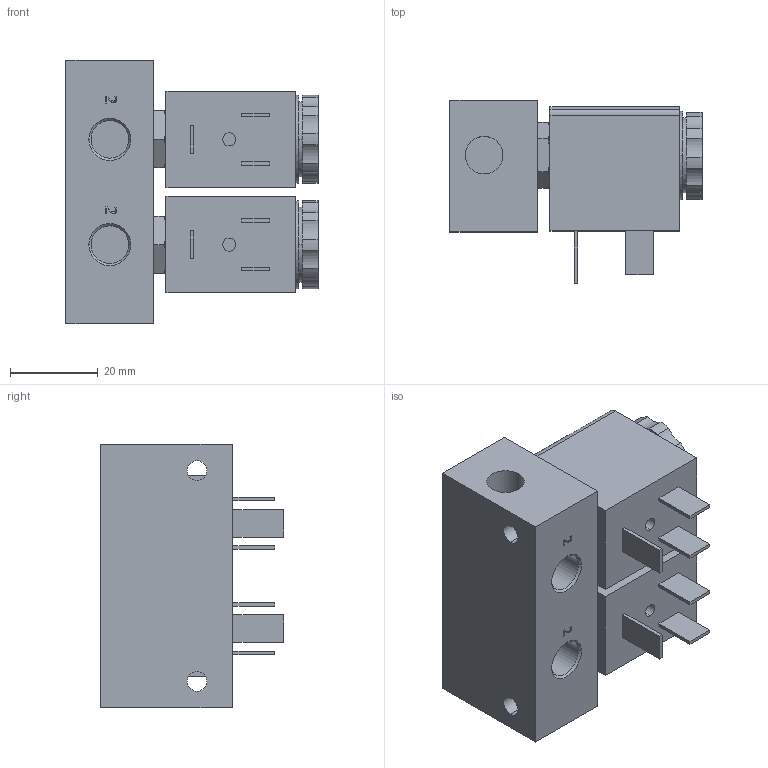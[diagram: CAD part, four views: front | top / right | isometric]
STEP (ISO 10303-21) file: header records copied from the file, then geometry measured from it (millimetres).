
FILE_DESCRIPTION (( 'STEP AP214' ), '1' );
FILE_NAME ('MSO-18-310_2-HN-412_Airtec.step', '2018-12-14T07:35:07', ( '' ), ( '' ), 'SwSTEP 2.0', 'SolidWorks 2010', '' );
FILE_SCHEMA (( 'AUTOMOTIVE_DESIGN' ));
Length unit declared in the file: millimetre
Products named in the file (3): Volumenkörper4; Volumenkörper1; MSO-18-310_2-HN-412_Airtec
Assembly tree (3 placements, depth 2):
  MSO-18-310_2-HN-412_Airtec
    Volumenkörper4
    Volumenkörper1  x2
Bounding box: 57.45 x 41.7 x 60 mm (x, y, z)
Volume: 73704 mm3; surface area: 23729.8 mm2
Topology: 3 solids, 5 shells, 406 faces, 996 edges, 650 vertices
Faces by surface type: plane 148, cylinder 144, bspline 56, cone 46, torus 12
Entity records: 14818 total; most frequent: CARTESIAN_POINT 3439, ORIENTED_EDGE 1836, DIRECTION 1738, EDGE_CURVE 918, AXIS2_PLACEMENT_3D 665, VERTEX_POINT 598, EDGE_LOOP 428, VECTOR 408
